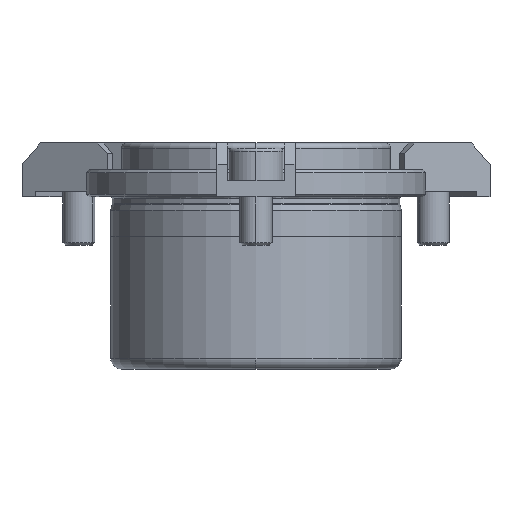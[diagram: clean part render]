
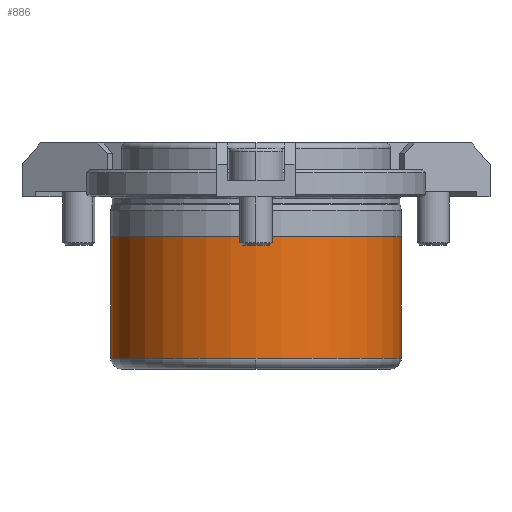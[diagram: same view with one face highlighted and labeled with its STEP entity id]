
A CAD part, front view. The second image highlights one B-rep face of the part: STEP entity #886.
In plain terms, the highlighted cylindrical face has radius 26.994 mm (diameter 53.988 mm), a partial arc.
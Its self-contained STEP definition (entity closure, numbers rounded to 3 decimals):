
#836=CARTESIAN_POINT('',(0.0,0.,-18.7));
#837=DIRECTION('',(0.0,0.,1.0));
#838=DIRECTION('',(1.0,0.0,0.0));
#839=AXIS2_PLACEMENT_3D('',#836,#837,#838);
#840=CYLINDRICAL_SURFACE('',#839,26.994);
#841=CARTESIAN_POINT('',(26.994,0.,-7.4));
#842=VERTEX_POINT('',#841);
#843=CARTESIAN_POINT('',(26.994,0.,-30.0));
#844=VERTEX_POINT('',#843);
#845=CARTESIAN_POINT('',(26.994,0.,-7.4));
#846=DIRECTION('',(0.0,0.0,-1.0));
#847=VECTOR('',#846,22.6);
#848=LINE('',#845,#847);
#849=EDGE_CURVE('',#842,#844,#848,.T.);
#850=ORIENTED_EDGE('',*,*,#849,.F.);
#851=CARTESIAN_POINT('',(-26.994,0.,-7.4));
#852=VERTEX_POINT('',#851);
#853=CARTESIAN_POINT('',(0.0,0.,-7.4));
#854=DIRECTION('',(0.0,0.0,1.0));
#855=DIRECTION('',(1.0,0.0,0.0));
#856=AXIS2_PLACEMENT_3D('',#853,#854,#855);
#857=CIRCLE('',#856,26.994);
#858=EDGE_CURVE('',#852,#842,#857,.T.);
#859=ORIENTED_EDGE('',*,*,#858,.F.);
#860=CARTESIAN_POINT('',(-26.994,0.,-30.0));
#861=VERTEX_POINT('',#860);
#862=CARTESIAN_POINT('',(-26.994,0.,-7.4));
#863=DIRECTION('',(0.0,0.0,-1.0));
#864=VECTOR('',#863,22.6);
#865=LINE('',#862,#864);
#866=EDGE_CURVE('',#852,#861,#865,.T.);
#867=ORIENTED_EDGE('',*,*,#866,.T.);
#868=CARTESIAN_POINT('',(0.0,-26.994,-30.));
#869=VERTEX_POINT('',#868);
#870=CARTESIAN_POINT('',(0.0,0.,-30.0));
#871=DIRECTION('',(0.0,0.0,1.0));
#872=DIRECTION('',(1.0,0.0,0.0));
#873=AXIS2_PLACEMENT_3D('',#870,#871,#872);
#874=CIRCLE('',#873,26.994);
#875=EDGE_CURVE('',#861,#869,#874,.T.);
#876=ORIENTED_EDGE('',*,*,#875,.T.);
#877=CARTESIAN_POINT('',(0.0,0.,-30.0));
#878=DIRECTION('',(0.0,0.0,1.0));
#879=DIRECTION('',(1.0,0.0,0.0));
#880=AXIS2_PLACEMENT_3D('',#877,#878,#879);
#881=CIRCLE('',#880,26.994);
#882=EDGE_CURVE('',#869,#844,#881,.T.);
#883=ORIENTED_EDGE('',*,*,#882,.T.);
#884=EDGE_LOOP('',(#850,#859,#867,#876,#883));
#885=FACE_OUTER_BOUND('',#884,.T.);
#886=ADVANCED_FACE('',(#885),#840,.T.);
